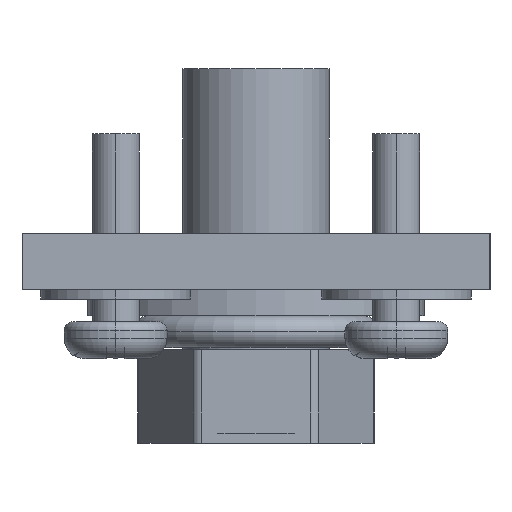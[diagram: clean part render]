
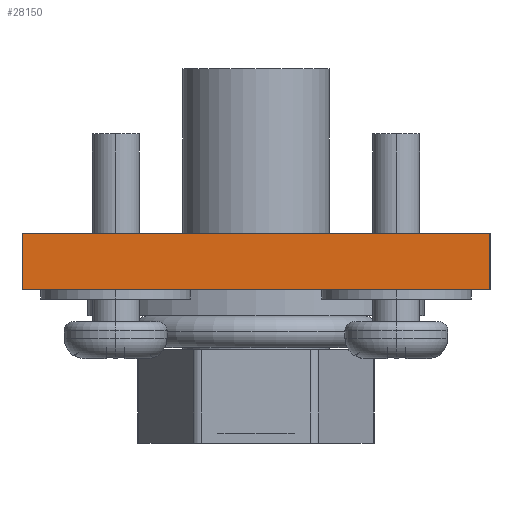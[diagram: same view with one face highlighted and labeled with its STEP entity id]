
A CAD part, left-side view. The second image highlights one B-rep face of the part: STEP entity #28150.
In plain terms, the highlighted planar face has unit normal (-1, 0, 0).
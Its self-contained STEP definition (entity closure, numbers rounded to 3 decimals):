
#22500=CARTESIAN_POINT('',(-6.488,66.46,0.));
#22510=DIRECTION('',(0.,-1.,0.));
#22520=VECTOR('',#22510,1.);
#22530=LINE('',#22500,#22520);
#22540=CARTESIAN_POINT('',(-6.488,66.46,0.));
#22550=VERTEX_POINT('',#22540);
#22560=CARTESIAN_POINT('',(-6.488,41.46,0.));
#22570=VERTEX_POINT('',#22560);
#22580=EDGE_CURVE('',#22550,#22570,#22530,.T.);
#27370=CARTESIAN_POINT('',(-6.488,66.46,3.));
#27380=VERTEX_POINT('',#27370);
#27410=CARTESIAN_POINT('',(-6.488,66.46,3.));
#27420=DIRECTION('',(0.,0.,-1.));
#27430=VECTOR('',#27420,1.);
#27440=LINE('',#27410,#27430);
#27450=EDGE_CURVE('',#27380,#22550,#27440,.T.);
#27800=CARTESIAN_POINT('',(-6.488,41.46,3.));
#27810=DIRECTION('',(0.,0.,-1.));
#27820=VECTOR('',#27810,1.);
#27830=LINE('',#27800,#27820);
#27840=CARTESIAN_POINT('',(-6.488,41.46,3.));
#27850=VERTEX_POINT('',#27840);
#27860=EDGE_CURVE('',#27850,#22570,#27830,.T.);
#27990=CARTESIAN_POINT('',(-6.488,41.46,0.));
#28000=DIRECTION('',(-1.,0.,0.));
#28010=DIRECTION('',(0.,1.,0.));
#28020=AXIS2_PLACEMENT_3D('',#27990,#28000,#28010);
#28030=PLANE('',#28020);
#28040=ORIENTED_EDGE('',*,*,#27450,.T.);
#28050=CARTESIAN_POINT('',(-6.488,66.46,3.));
#28060=DIRECTION('',(0.,-1.,0.));
#28070=VECTOR('',#28060,1.);
#28080=LINE('',#28050,#28070);
#28090=EDGE_CURVE('',#27380,#27850,#28080,.T.);
#28100=ORIENTED_EDGE('',*,*,#28090,.F.);
#28110=ORIENTED_EDGE('',*,*,#27860,.F.);
#28120=ORIENTED_EDGE('',*,*,#22580,.T.);
#28130=EDGE_LOOP('',(#28120,#28110,#28100,#28040));
#28140=FACE_OUTER_BOUND('',#28130,.T.);
#28150=ADVANCED_FACE('',(#28140),#28030,.T.);
